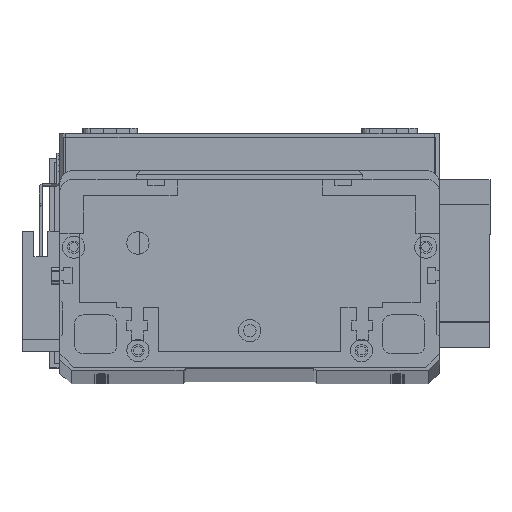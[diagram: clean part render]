
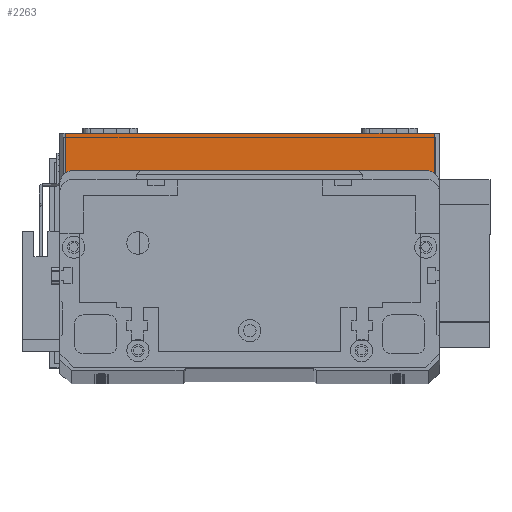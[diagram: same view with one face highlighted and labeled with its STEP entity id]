
A CAD part, top view. The second image highlights one B-rep face of the part: STEP entity #2263.
In plain terms, the highlighted planar face has unit normal (0, 0, 1) as drawn and (0, -1, 0) by its records, which use the part's own axes.
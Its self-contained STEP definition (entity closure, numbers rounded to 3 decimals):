
#1321 = VERTEX_POINT ( 'NONE', #27849 ) ;
#2062 = EDGE_CURVE ( 'NONE', #28941, #21204, #9652, .T. ) ;
#2263 = ADVANCED_FACE ( 'NONE', ( #22691 ), #5607, .F. ) ;
#2309 = LINE ( 'NONE', #15663, #14946 ) ;
#2630 = DIRECTION ( 'NONE',  ( 1., 0., 0. ) ) ;
#3943 = EDGE_LOOP ( 'NONE', ( #5135, #6034, #16252, #14000 ) ) ;
#4655 = LINE ( 'NONE', #29813, #22926 ) ;
#5135 = ORIENTED_EDGE ( 'NONE', *, *, #17376, .F. ) ;
#5607 = PLANE ( 'NONE',  #14699 ) ;
#5716 = DIRECTION ( 'NONE',  ( 0., 0., 1. ) ) ;
#6034 = ORIENTED_EDGE ( 'NONE', *, *, #2062, .T. ) ;
#8518 = DIRECTION ( 'NONE',  ( 0., 0., 1. ) ) ;
#9313 = VERTEX_POINT ( 'NONE', #20203 ) ;
#9652 = LINE ( 'NONE', #18315, #15211 ) ;
#13127 = DIRECTION ( 'NONE',  ( 1., 0., 0. ) ) ;
#13176 = CARTESIAN_POINT ( 'NONE',  ( 2., 0., 19.5 ) ) ;
#14000 = ORIENTED_EDGE ( 'NONE', *, *, #30100, .T. ) ;
#14483 = CARTESIAN_POINT ( 'NONE',  ( 0., 0., 19.5 ) ) ;
#14699 = AXIS2_PLACEMENT_3D ( 'NONE', #27071, #19953, #5716 ) ;
#14946 = VECTOR ( 'NONE', #8518, 1000. ) ;
#15211 = VECTOR ( 'NONE', #21531, 1000. ) ;
#15663 = CARTESIAN_POINT ( 'NONE',  ( 134., 0., 19.5 ) ) ;
#16252 = ORIENTED_EDGE ( 'NONE', *, *, #17643, .T. ) ;
#16958 = LINE ( 'NONE', #14483, #28932 ) ;
#17376 = EDGE_CURVE ( 'NONE', #28941, #9313, #16958, .T. ) ;
#17643 = EDGE_CURVE ( 'NONE', #21204, #1321, #4655, .T. ) ;
#18315 = CARTESIAN_POINT ( 'NONE',  ( 2., 0., 19.5 ) ) ;
#19953 = DIRECTION ( 'NONE',  ( 0., 1., 0. ) ) ;
#20203 = CARTESIAN_POINT ( 'NONE',  ( 134., 0., 19.5 ) ) ;
#21204 = VERTEX_POINT ( 'NONE', #26979 ) ;
#21531 = DIRECTION ( 'NONE',  ( 0., 0., -1. ) ) ;
#22691 = FACE_OUTER_BOUND ( 'NONE', #3943, .T. ) ;
#22926 = VECTOR ( 'NONE', #13127, 1000. ) ;
#26979 = CARTESIAN_POINT ( 'NONE',  ( 2., 0., 0. ) ) ;
#27071 = CARTESIAN_POINT ( 'NONE',  ( 0., 0., 19.5 ) ) ;
#27849 = CARTESIAN_POINT ( 'NONE',  ( 134., 0., 0. ) ) ;
#28932 = VECTOR ( 'NONE', #2630, 1000. ) ;
#28941 = VERTEX_POINT ( 'NONE', #13176 ) ;
#29813 = CARTESIAN_POINT ( 'NONE',  ( 0., 0., 0. ) ) ;
#30100 = EDGE_CURVE ( 'NONE', #1321, #9313, #2309, .T. ) ;
